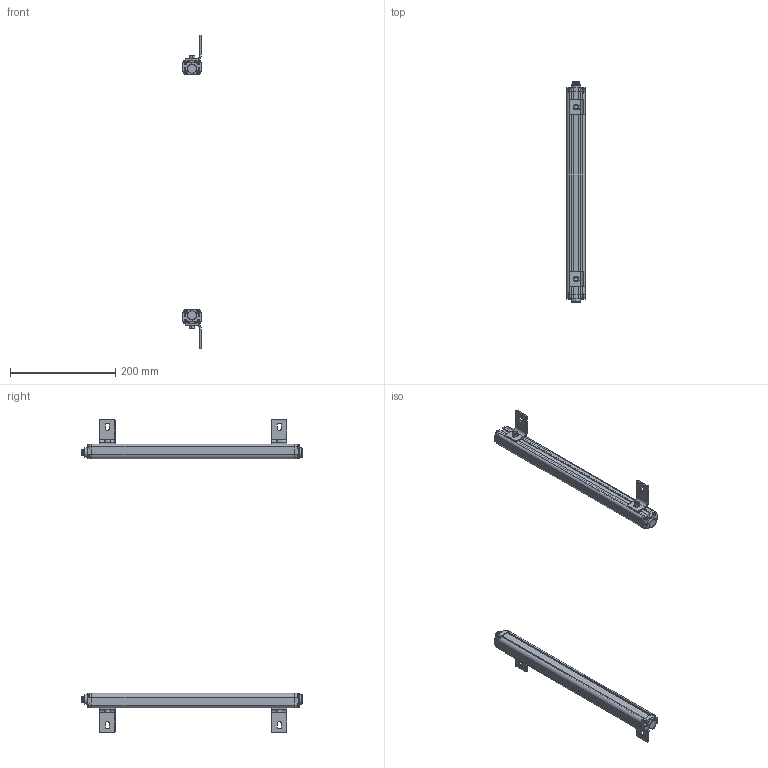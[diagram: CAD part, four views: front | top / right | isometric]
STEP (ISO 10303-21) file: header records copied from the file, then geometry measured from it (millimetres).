
FILE_DESCRIPTION (( 'STEP AP214' ), '1' );
FILE_NAME ('elg1820.STEP', '2018-03-08T11:53:23', ( '' ), ( '' ), 'SwSTEP 2.0', 'SolidWorks 2017', '' );
FILE_SCHEMA (( 'AUTOMOTIVE_DESIGN' ));
Length unit declared in the file: millimetre
Products named in the file (11): bz1-1820; elgw-1820; hk-1820; lx-1820; czzj-1820; hkct1-1820; elg1820; elgdg03-1820; dlx-1820; glgdg-1820; lgp-1820
Assembly tree (40 placements, depth 2):
  elg1820
    elgw-1820  x2
    bz1-1820  x2
    lgp-1820  x2
    glgdg-1820  x2
    elgdg03-1820  x2
    hkct1-1820  x2
    lx-1820  x16
    hk-1820  x4
    czzj-1820  x4
    dlx-1820  x4
Bounding box: 34.7 x 417.6 x 594 mm (x, y, z)
Volume: 314121.9 mm3; surface area: 323934 mm2
Topology: 40 solids, 40 shells, 2144 faces, 5616 edges, 3576 vertices
Faces by surface type: cylinder 1024, plane 688, bspline 432
Entity records: 143121 total; most frequent: CARTESIAN_POINT 128346, ORIENTED_EDGE 3124, DIRECTION 2774, EDGE_CURVE 1562, AXIS2_PLACEMENT_3D 1005, VERTEX_POINT 1004, VECTOR 764, LINE 764
